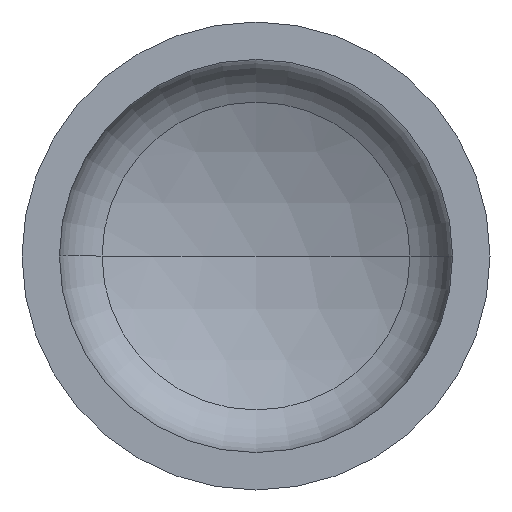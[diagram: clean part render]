
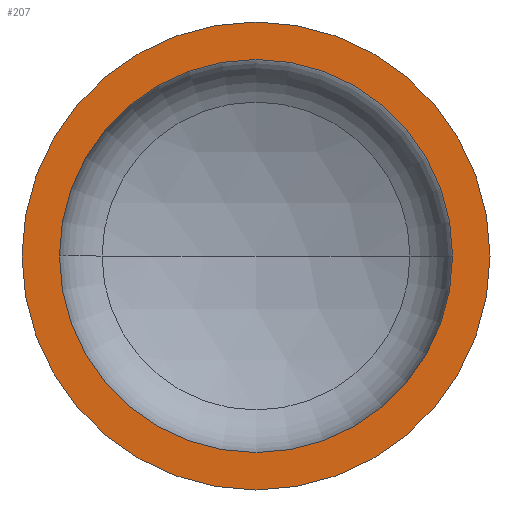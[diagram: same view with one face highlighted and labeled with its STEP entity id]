
A CAD part, front view. The second image highlights one B-rep face of the part: STEP entity #207.
In plain terms, the highlighted planar face has unit normal (0, -1, 0).
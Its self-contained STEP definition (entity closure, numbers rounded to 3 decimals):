
#6 = EDGE_LOOP ( 'NONE', ( #371, #36 ) ) ;
#13 = DIRECTION ( 'NONE',  ( 1., 0., 0. ) ) ;
#14 = AXIS2_PLACEMENT_3D ( 'NONE', #280, #224, #264 ) ;
#36 = ORIENTED_EDGE ( 'NONE', *, *, #60, .T. ) ;
#40 = AXIS2_PLACEMENT_3D ( 'NONE', #359, #325, #372 ) ;
#41 = AXIS2_PLACEMENT_3D ( 'NONE', #338, #199, #210 ) ;
#50 = VERTEX_POINT ( 'NONE', #310 ) ;
#60 = EDGE_CURVE ( 'NONE', #50, #147, #169, .T. ) ;
#61 = EDGE_CURVE ( 'NONE', #119, #89, #365, .T. ) ;
#86 = EDGE_LOOP ( 'NONE', ( #91, #126 ) ) ;
#89 = VERTEX_POINT ( 'NONE', #263 ) ;
#91 = ORIENTED_EDGE ( 'NONE', *, *, #61, .F. ) ;
#114 = AXIS2_PLACEMENT_3D ( 'NONE', #180, #384, #13 ) ;
#119 = VERTEX_POINT ( 'NONE', #352 ) ;
#126 = ORIENTED_EDGE ( 'NONE', *, *, #346, .F. ) ;
#147 = VERTEX_POINT ( 'NONE', #223 ) ;
#169 = CIRCLE ( 'NONE', #41, 550. ) ;
#175 = DIRECTION ( 'NONE',  ( 0., -1., 0. ) ) ;
#177 = DIRECTION ( 'NONE',  ( 1., 0., 0. ) ) ;
#180 = CARTESIAN_POINT ( 'NONE',  ( 0., 0., 0. ) ) ;
#199 = DIRECTION ( 'NONE',  ( 0., -1., 0. ) ) ;
#207 = ADVANCED_FACE ( 'NONE', ( #358, #341 ), #298, .F. ) ;
#210 = DIRECTION ( 'NONE',  ( 1., 0., 0. ) ) ;
#223 = CARTESIAN_POINT ( 'NONE',  ( 550., 0., 0. ) ) ;
#224 = DIRECTION ( 'NONE',  ( 0., 1., 0. ) ) ;
#263 = CARTESIAN_POINT ( 'NONE',  ( -462., 0., 0. ) ) ;
#264 = DIRECTION ( 'NONE',  ( -1., 0., 0. ) ) ;
#280 = CARTESIAN_POINT ( 'NONE',  ( -550., 0., 0. ) ) ;
#298 = PLANE ( 'NONE',  #14 ) ;
#310 = CARTESIAN_POINT ( 'NONE',  ( -550., 0., 0. ) ) ;
#325 = DIRECTION ( 'NONE',  ( 0., -1., 0. ) ) ;
#326 = CARTESIAN_POINT ( 'NONE',  ( 0., 0., 0. ) ) ;
#338 = CARTESIAN_POINT ( 'NONE',  ( 0., 0., 0. ) ) ;
#341 = FACE_OUTER_BOUND ( 'NONE', #6, .T. ) ;
#346 = EDGE_CURVE ( 'NONE', #89, #119, #382, .T. ) ;
#352 = CARTESIAN_POINT ( 'NONE',  ( 462., 0., 0. ) ) ;
#358 = FACE_BOUND ( 'NONE', #86, .T. ) ;
#359 = CARTESIAN_POINT ( 'NONE',  ( 0., 0., 0. ) ) ;
#362 = EDGE_CURVE ( 'NONE', #147, #50, #376, .T. ) ;
#365 = CIRCLE ( 'NONE', #40, 462. ) ;
#369 = AXIS2_PLACEMENT_3D ( 'NONE', #326, #175, #177 ) ;
#371 = ORIENTED_EDGE ( 'NONE', *, *, #362, .T. ) ;
#372 = DIRECTION ( 'NONE',  ( 1., 0., 0. ) ) ;
#376 = CIRCLE ( 'NONE', #114, 550. ) ;
#382 = CIRCLE ( 'NONE', #369, 462. ) ;
#384 = DIRECTION ( 'NONE',  ( 0., -1., 0. ) ) ;
